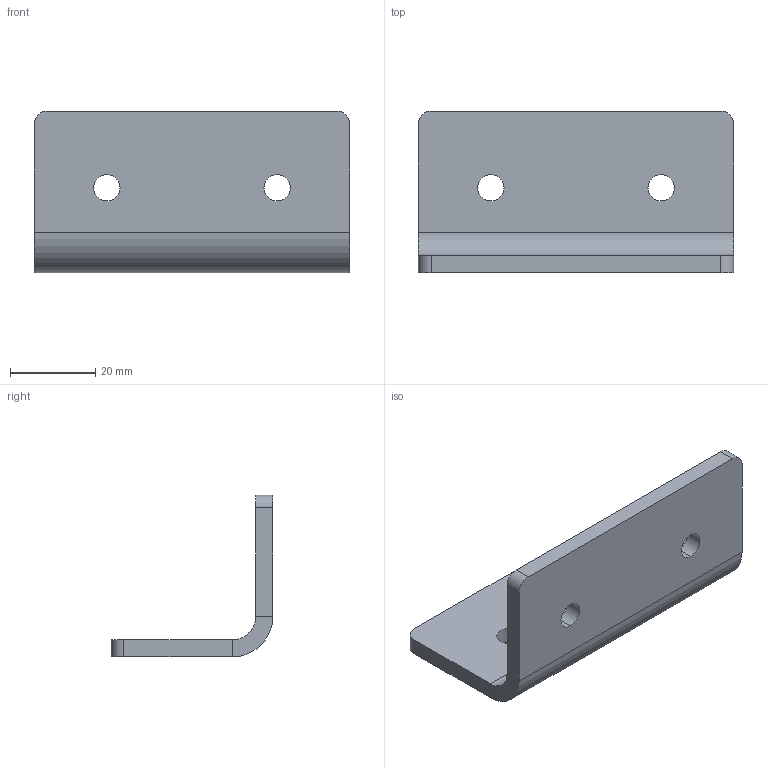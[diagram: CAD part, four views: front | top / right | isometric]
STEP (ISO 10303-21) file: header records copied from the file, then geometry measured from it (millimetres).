
FILE_DESCRIPTION (( 'STEP AP214' ), '1' );
FILE_NAME ('8203s.STEP', '2015-04-08T05:49:35', ( '' ), ( '' ), 'SwSTEP 2.0', 'SolidWorks 2014', '' );
FILE_SCHEMA (( 'AUTOMOTIVE_DESIGN' ));
Length unit declared in the file: millimetre
Products named in the file (1): 8203s
Bounding box: 74 x 38 x 38 mm (x, y, z)
Volume: 19837.6 mm3; surface area: 11351.9 mm2
Topology: 1 solids, 1 shells, 26 faces, 64 edges, 40 vertices
Faces by surface type: cylinder 14, plane 12
Entity records: 822 total; most frequent: DIRECTION 146, CARTESIAN_POINT 131, ORIENTED_EDGE 128, EDGE_CURVE 64, AXIS2_PLACEMENT_3D 55, VERTEX_POINT 40, VECTOR 36, LINE 36
